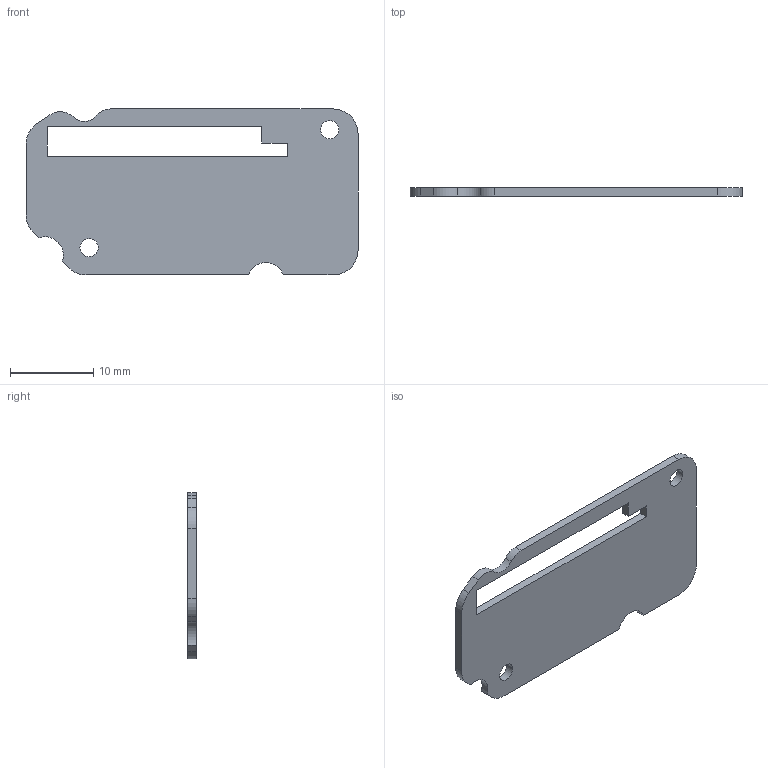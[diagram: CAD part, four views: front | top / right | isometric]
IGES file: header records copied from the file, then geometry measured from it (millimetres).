
Start section:  PTC IGES file: back_plate_blank.igs
Global section: file name: back_plate_blank.igs; native system: Pro/ENGINEER by Parametric Technology Corporation; preprocessor: 2007230; author: JPM; organization: Unknown; date: 20080701.155609; units: millimetre
Bounding box: 40 x 1 x 20 mm (x, y, z)
Surface area: 1499.7 mm2 (no closed solid volume)
Topology: 0 solids, 0 shells, 30 faces, 168 edges, 168 vertices
Faces by surface type: bspline 16, revolution 14
